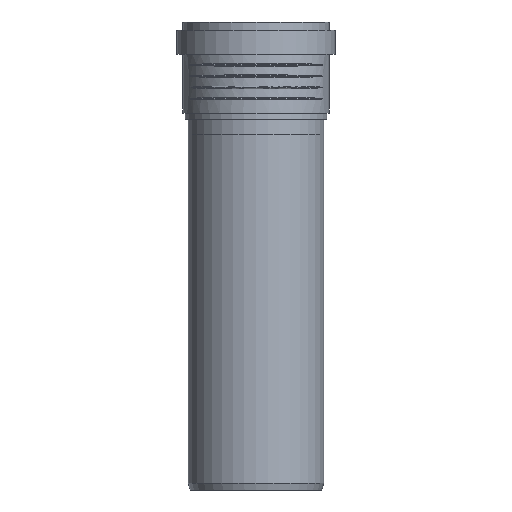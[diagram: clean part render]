
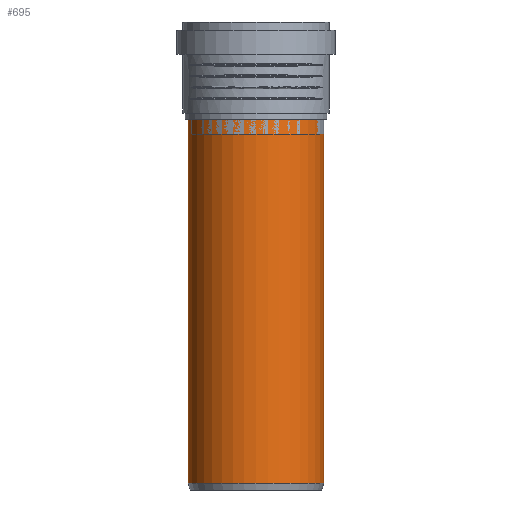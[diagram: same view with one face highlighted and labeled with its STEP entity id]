
A CAD part, front view. The second image highlights one B-rep face of the part: STEP entity #695.
In plain terms, the highlighted cylindrical face has radius 45.1 mm (diameter 90.2 mm), a full revolution.
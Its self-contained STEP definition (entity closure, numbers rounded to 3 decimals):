
#94=CYLINDRICAL_SURFACE($,#750,45.1);
#118=FACE_BOUND($,#198,.T.);
#153=FACE_OUTER_BOUND($,#197,.T.);
#197=EDGE_LOOP($,(#472));
#198=EDGE_LOOP($,(#473));
#272=CIRCLE($,#747,45.1);
#274=CIRCLE($,#751,45.1);
#311=VERTEX_POINT($,#1021);
#313=VERTEX_POINT($,#1027);
#382=EDGE_CURVE($,#311,#311,#272,.T.);
#384=EDGE_CURVE($,#313,#313,#274,.T.);
#472=ORIENTED_EDGE($,*,*,#384,.T.);
#473=ORIENTED_EDGE($,*,*,#382,.F.);
#695=ADVANCED_FACE($,(#153,#118),#94,.T.);
#747=AXIS2_PLACEMENT_3D($,#1022,#841,#842);
#750=AXIS2_PLACEMENT_3D($,#1026,#847,#848);
#751=AXIS2_PLACEMENT_3D($,#1028,#849,#850);
#841=DIRECTION('center_axis',(0.,0.,-1.));
#842=DIRECTION('ref_axis',(-1.,0.,0.));
#847=DIRECTION('center_axis',(0.,0.,1.));
#848=DIRECTION('ref_axis',(-1.,0.,0.));
#849=DIRECTION('center_axis',(0.,0.,-1.));
#850=DIRECTION('ref_axis',(-1.,0.,0.));
#1021=CARTESIAN_POINT('',(45.1,0.,-118.7));
#1022=CARTESIAN_POINT('Origin',(0.,0.,-118.7));
#1026=CARTESIAN_POINT('Origin',(0.,0.,0.));
#1027=CARTESIAN_POINT('',(45.1,0.,123.2));
#1028=CARTESIAN_POINT('Origin',(0.,0.,123.2));
